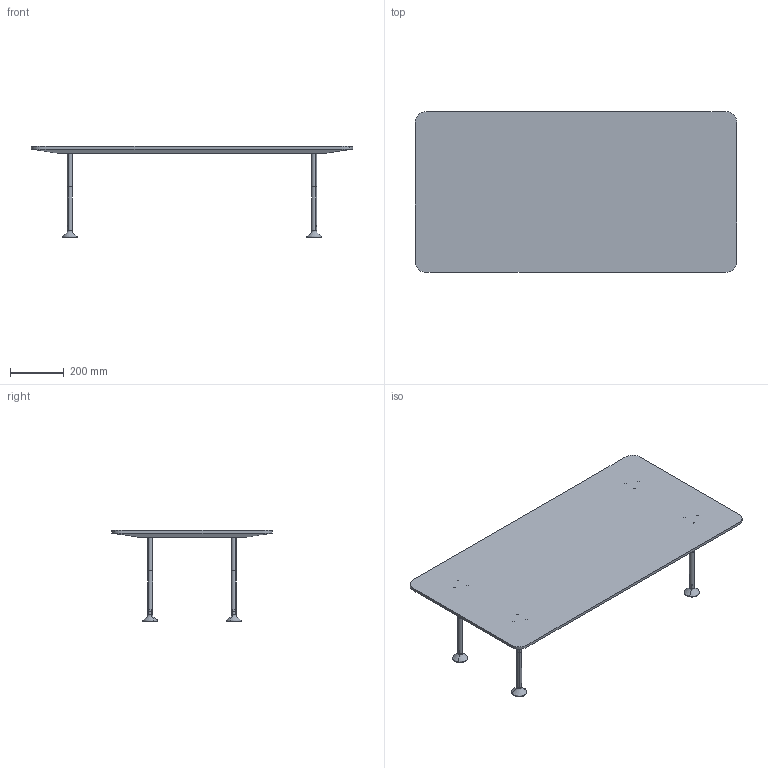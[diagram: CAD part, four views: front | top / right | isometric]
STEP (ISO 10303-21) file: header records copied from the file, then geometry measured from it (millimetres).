
FILE_DESCRIPTION(/* description */ (''),/* implementation_level */ '2;1');
FILE_NAME(/* name */ 'RECTAN~3',/* time_stamp */ '2016-09-23T10:06:35+02:00',/* author */ (''),/* organization */ (''),/* preprocessor_version */ 'ST-DEVELOPER v14',/* originating_system */ '',/* authorisation */ '');
FILE_SCHEMA (('CONFIG_CONTROL_DESIGN'));
Length unit declared in the file: millimetre
Products named in the file (1): Document
Bounding box: 1200 x 600 x 341 mm (x, y, z)
Volume: 16141824.6 mm3; surface area: 1690515 mm2
Topology: 13 solids, 13 shells, 182 faces, 394 edges, 238 vertices
Faces by surface type: bspline 148, plane 34
Entity records: 19542 total; most frequent: CARTESIAN_POINT 17238, ORIENTED_EDGE 756, EDGE_CURVE 378, EDGE_LOOP 238, VERTEX_POINT 238, ADVANCED_FACE 182, FACE_OUTER_BOUND 182, FACE_BOUND 56
